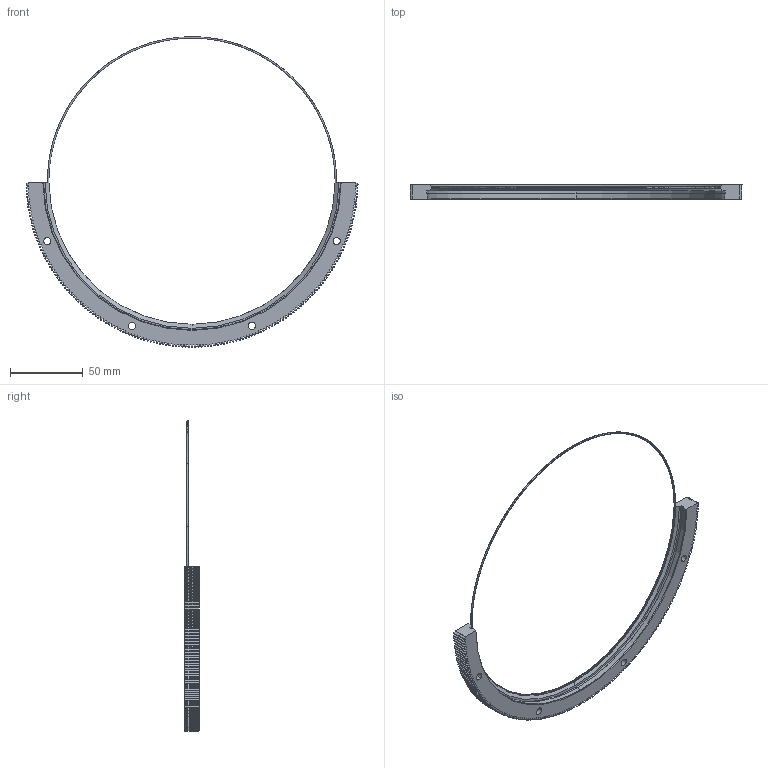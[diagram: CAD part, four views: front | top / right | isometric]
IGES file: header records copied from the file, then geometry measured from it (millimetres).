
Start section: 3D InterOp IGES (v. 2019 1.0.2), Spatial Corp. Copyright (c) 1999-2017.
Global section: file name: RIV 228 R180 P.igs; native system: Spatial Corp.; preprocessor: 3D InterOp GENERIC/IGES 3.0; author: Noname; organization: Noname; date: 20220719.140144; units: millimetre
Bounding box: 228.17 x 10 x 213.44 mm (x, y, z)
Surface area: 27976.1 mm2 (no closed solid volume)
Topology: 0 solids, 0 shells, 1008 faces, 6020 edges, 6016 vertices
Faces by surface type: extrusion 656, revolution 352
